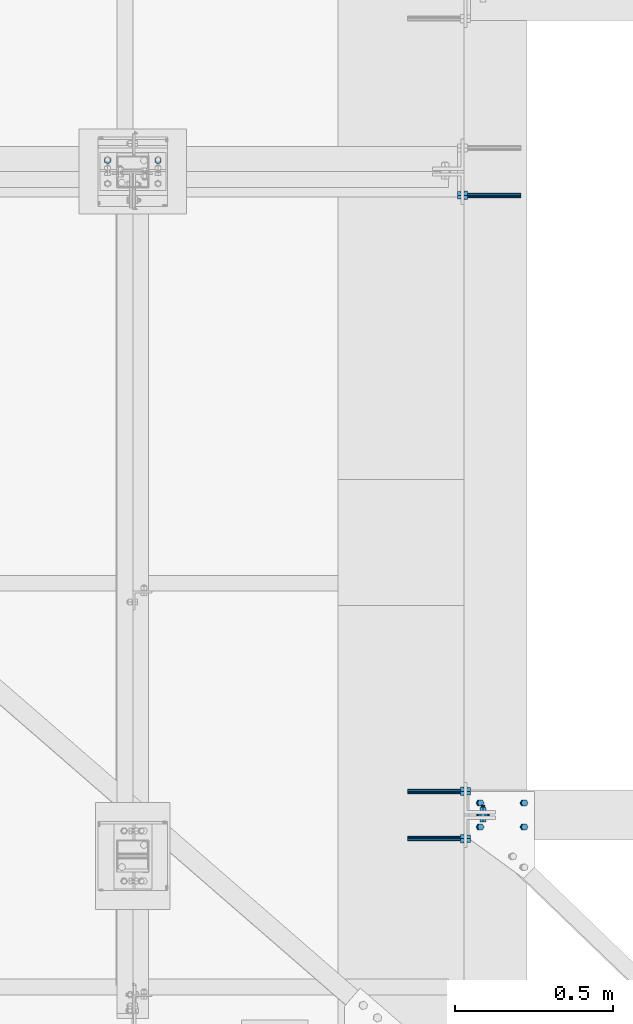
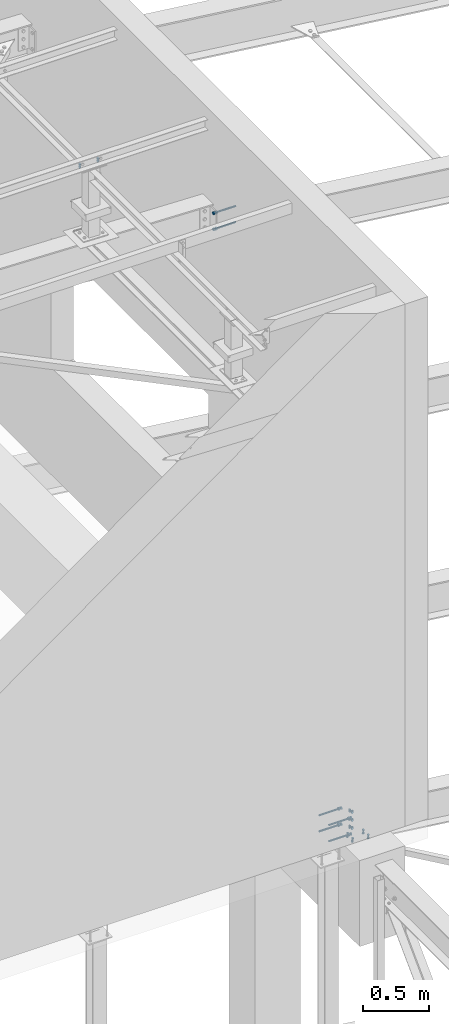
# One storey, part 267 of 3134: 6 mechanical fasteners, 5 elements without a shape of their own.
"""IFC2X3 building model written with IfcOpenShell, lengths in millimetres."""

import ifcopenshell
import ifcopenshell.guid

model = None  # the IFC model being written
_history = None  # IfcOwnerHistory: only IFC2X3 demands one
_inside = {}  # id of a spatial element -> (the spatial element, [elements in it])
_under = {}  # id of a project, library or spatial element -> (it, [spatial elements below it])
_declared = {}  # id of a project -> (the project, [libraries it declares])
_typed = {}  # id of a type object -> (the type object, [elements of that type])
_made_of = {}  # id of a material, layer set ... -> (it, [elements and type objects made of it])


def new_model(schema):
    """Start an empty IFC model of exactly this schema.

    Asked for "IFC4X3", IfcOpenShell would pick the latest addendum, in which some entities
    have other attributes; the version numbers below select the first issue.
    IFC2X3 requires an IfcOwnerHistory on every rooted entity: one is made here for all.
    """
    global model, _history
    if schema == "IFC4X3":
        model = ifcopenshell.file(schema_version=(4, 3, 0, 0))
    else:
        model = ifcopenshell.file(schema=schema)
    _inside.clear()
    _under.clear()
    _declared.clear()
    _typed.clear()
    _made_of.clear()
    _history = None
    if model.schema == "IFC2X3":
        org = make("IfcOrganization", Name="unknown")
        user = make(
            "IfcPersonAndOrganization",
            ThePerson=make("IfcPerson", FamilyName="unknown"),
            TheOrganization=org,
        )
        app = make(
            "IfcApplication",
            ApplicationDeveloper=org,
            Version="unknown",
            ApplicationFullName="unknown",
            ApplicationIdentifier="unknown",
        )
        _history = make(
            "IfcOwnerHistory",
            OwningUser=user,
            OwningApplication=app,
            ChangeAction="ADDED",
            CreationDate=0,
        )
    return model


def make(cls, **values):
    """One entity of the class cls with the attributes given. An attribute that is None is left unset."""
    return model.create_entity(
        cls, **{name: value for name, value in values.items() if value is not None}
    )


def rooted(cls, **values):
    """An entity with a GlobalId (a new one), such as an element, a storey or a relation."""
    return make(cls, GlobalId=ifcopenshell.guid.new(), OwnerHistory=_history, **values)


def si_unit(unit_type, name, prefix=None):
    """IfcSIUnit, for example si_unit("LENGTHUNIT", "METRE", prefix="MILLI")."""
    return make("IfcSIUnit", UnitType=unit_type, Prefix=prefix, Name=name)


def assignment(units):
    """IfcUnitAssignment: the units of a project."""
    return None if units is None else make("IfcUnitAssignment", Units=units)


def point(xyz):
    """IfcCartesianPoint."""
    return None if xyz is None else make("IfcCartesianPoint", Coordinates=xyz)


def direction(xyz):
    """IfcDirection."""
    return None if xyz is None else make("IfcDirection", DirectionRatios=xyz)


def frame(location, z_axis=None, x_axis=None):
    """IfcAxis2Placement3D, a coordinate frame: its origin and axes. An axis left out is left unset."""
    return make(
        "IfcAxis2Placement3D",
        Location=point(location),
        Axis=direction(z_axis),
        RefDirection=direction(x_axis),
    )


def origin_with_axes():
    """The frame at (0, 0, 0) with the z axis (0, 0, 1) and the x axis (1, 0, 0) written out."""
    return frame((0.0, 0.0, 0.0), z_axis=(0.0, 0.0, 1.0), x_axis=(1.0, 0.0, 0.0))


def place(relative_to, where):
    """IfcLocalPlacement: puts the frame where relative to a parent placement (None: the world)."""
    return make(
        "IfcLocalPlacement", PlacementRelTo=relative_to, RelativePlacement=where
    )


def context(
    kind, dimensions, precision=None, world=None, true_north=None, identifier=None
):
    """IfcGeometricRepresentationContext, for example the 3D "Model" context."""
    return make(
        "IfcGeometricRepresentationContext",
        ContextIdentifier=identifier,
        ContextType=kind,
        CoordinateSpaceDimension=dimensions,
        Precision=precision,
        WorldCoordinateSystem=world,
        TrueNorth=true_north,
    )


def subcontext(parent, identifier, kind, view, scale=None):
    """IfcGeometricRepresentationSubContext, for example "Body" below "Model"."""
    return make(
        "IfcGeometricRepresentationSubContext",
        ContextIdentifier=identifier,
        ContextType=kind,
        ParentContext=parent,
        TargetScale=scale,
        TargetView=view,
    )


def project(units=None, contexts=None):
    """IfcProject with its units and contexts."""
    return rooted(
        "IfcProject",
        Name="project",
        RepresentationContexts=contexts,
        UnitsInContext=assignment(units),
    )


def spatial(cls, under=None, at=None, **own):
    """A site, building, storey or space (cls), placed at a placement, below another one or the project."""
    s = rooted(cls, ObjectPlacement=at, **own)
    if under is not None:
        _under.setdefault(under.id(), (under, []))[1].append(s)
    return s


def faces_of(points, faces, orient=None, outer=None):
    """IfcFace entities. A face is a list of loops; a loop is a list of indices into points, from 0.

    orient and outer hold one flag for each loop. By default every Orientation is true, the
    first loop of a face is its IfcFaceOuterBound and the others are IfcFaceBound.
    """
    made = []
    for i, loops in enumerate(faces):
        bounds = []
        for j, loop in enumerate(loops):
            is_outer = j == 0 if outer is None else outer[i][j]
            bounds.append(
                make(
                    "IfcFaceOuterBound" if is_outer else "IfcFaceBound",
                    Bound=make("IfcPolyLoop", Polygon=[points[k] for k in loop]),
                    Orientation=True if orient is None else orient[i][j],
                )
            )
        made.append(make("IfcFace", Bounds=bounds))
    return made


def faceted_brep(points, faces, orient=None, outer=None, voids=None):
    """IfcFacetedBrep: a solid bounded by flat faces; with voids (closed shells), ...WithVoids."""
    shared = [point(p) for p in points]
    hull = make("IfcClosedShell", CfsFaces=faces_of(shared, faces, orient, outer))
    if voids is None:
        return make("IfcFacetedBrep", Outer=hull)
    return make(
        "IfcFacetedBrepWithVoids",
        Outer=hull,
        Voids=[
            make(cls, CfsFaces=faces_of(shared, fs, o, b)) for cls, fs, o, b in voids
        ],
    )


def shape(context_of_items, identifier, shape_type, items):
    """IfcShapeRepresentation: the items that make up one representation, for example the "Body"."""
    return make(
        "IfcShapeRepresentation",
        ContextOfItems=context_of_items,
        RepresentationIdentifier=identifier,
        RepresentationType=shape_type,
        Items=items,
    )


def source(mapping_origin, context_of_items, identifier, shape_type, items):
    """IfcRepresentationMap: a shape defined once, which mapped items show again and again."""
    return make(
        "IfcRepresentationMap",
        MappingOrigin=mapping_origin,
        MappedRepresentation=shape(context_of_items, identifier, shape_type, items),
    )


def transform(
    local_origin,
    x_axis=None,
    y_axis=None,
    z_axis=None,
    scale=None,
    scale2=None,
    scale3=None,
    uniform=True,
):
    """IfcCartesianTransformationOperator3D, or its non-uniform kind. x_axis, y_axis, z_axis: its Axis1, 2, 3."""
    if uniform:
        return make(
            "IfcCartesianTransformationOperator3D",
            Axis1=direction(x_axis),
            Axis2=direction(y_axis),
            LocalOrigin=point(local_origin),
            Scale=scale,
            Axis3=direction(z_axis),
        )
    return make(
        "IfcCartesianTransformationOperator3DnonUniform",
        Axis1=direction(x_axis),
        Axis2=direction(y_axis),
        LocalOrigin=point(local_origin),
        Scale=scale,
        Axis3=direction(z_axis),
        Scale2=scale2,
        Scale3=scale3,
    )


def mapped(mapping_source, mapping_target):
    """IfcMappedItem: shows the shape of a source again, moved by a transform."""
    return make(
        "IfcMappedItem", MappingSource=mapping_source, MappingTarget=mapping_target
    )


def material(Name=None, Category=None):
    """IfcMaterial."""
    return make("IfcMaterial", Name=Name, Category=Category)


def made_of(thing, what):
    """Note that an element or type object is made of a material, layer set ...; save() writes the relation."""
    if what is not None:
        _made_of.setdefault(what.id(), (what, []))[1].append(thing)
    return thing


def type_object(cls, material=None, **own):
    """A type object (cls), such as IfcWallType, which elements share."""
    return made_of(rooted(cls, **own), material)


def element(
    cls,
    number,
    at=None,
    inside=None,
    cuts=None,
    type_object=None,
    material=None,
    context=None,
    identifier="Body",
    shape_type=None,
    held_by="IfcProductDefinitionShape",
    body=None,
    shapes=None,
    **own,
):
    """One element of the class cls, such as IfcWall. Its Tag is "e" and its number.

    at: its placement. inside: the storey or other place that contains it. cuts: it is an
    opening in that element (IfcRelVoidsElement). A single representation is given by context,
    identifier, shape_type and body (its items); several are given by shapes. held_by: the class
    of the entity that holds the representations. save() writes the other relations.
    """
    e = rooted(cls, Tag="e%d" % number, ObjectPlacement=at, **own)
    if body is not None:
        shapes = [shape(context, identifier, shape_type, body)]
    if shapes is not None:
        e.Representation = make(held_by, Representations=shapes)
    if inside is not None:
        _inside.setdefault(inside.id(), (inside, []))[1].append(e)
    if cuts is not None:
        rooted(
            "IfcRelVoidsElement", RelatingBuildingElement=cuts, RelatedOpeningElement=e
        )
    if type_object is not None:
        _typed.setdefault(type_object.id(), (type_object, []))[1].append(e)
    return made_of(e, material)


def aggregate(whole, parts):
    """IfcRelAggregates: a whole, such as a stair, and the parts it consists of."""
    return rooted("IfcRelAggregates", RelatingObject=whole, RelatedObjects=parts)


def save(model, path):
    """Write the relations noted so far, then the file.

    IfcRelAggregates (storeys below a building ...), IfcRelContainedInSpatialStructure (elements
    in a storey), IfcRelDefinesByType, IfcRelAssociatesMaterial and IfcRelDeclares: one each for
    every whole, place, type object, material and project.
    """
    for whole, parts in _under.values():
        aggregate(whole, parts)
    for where, things in _inside.values():
        rooted(
            "IfcRelContainedInSpatialStructure",
            RelatedElements=things,
            RelatingStructure=where,
        )
    for kind, things in _typed.values():
        rooted("IfcRelDefinesByType", RelatedObjects=things, RelatingType=kind)
    for what, things in _made_of.values():
        rooted("IfcRelAssociatesMaterial", RelatedObjects=things, RelatingMaterial=what)
    for by, libraries in _declared.values():
        rooted("IfcRelDeclares", RelatingContext=by, RelatedDefinitions=libraries)
    model.write(path)


model = new_model("IFC2X3")

# Units and contexts
model_context = context("Model", 3, precision=1e-05, world=origin_with_axes())
body_context = subcontext(model_context, "Body", "Model", "MODEL_VIEW")
ifc_project = project(units=[si_unit("LENGTHUNIT", "METRE", prefix="MILLI"), si_unit("AREAUNIT", "SQUARE_METRE"), si_unit("VOLUMEUNIT", "CUBIC_METRE"), si_unit("MASSUNIT", "GRAM", prefix="KILO"), si_unit("TIMEUNIT", "SECOND"), si_unit("PLANEANGLEUNIT", "RADIAN"), si_unit("SOLIDANGLEUNIT", "STERADIAN"), si_unit("THERMODYNAMICTEMPERATUREUNIT", "DEGREE_CELSIUS"), si_unit("LUMINOUSINTENSITYUNIT", "LUMEN")], contexts=[model_context])

# Site, building, storey
site_placement = place(None, origin_with_axes())
site = spatial("IfcSite", under=ifc_project, at=site_placement, CompositionType="ELEMENT")
building_placement = place(site_placement, origin_with_axes())
building = spatial("IfcBuilding", under=site, at=building_placement, Name="Undefined", CompositionType="ELEMENT")
storey_placement = place(building_placement, origin_with_axes())
storey = spatial("IfcBuildingStorey", under=building, at=storey_placement, Name="Undefined", CompositionType="ELEMENT", Elevation=0.0)

# Assembly, mechanical fastener
assembly_1_placement = place(storey_placement, origin_with_axes())
assembly_1 = element("IfcElementAssembly", 1, at=assembly_1_placement, inside=storey, AssemblyPlace="NOTDEFINED", PredefinedType="RIGID_FRAME")
ifc_material_1 = material(Name="HILTI-HAS")
mechanical_fastener_type = type_object("IfcMechanicalFastenerType", Name="Bolt assembly")
shared_shape_1 = source(origin_with_axes(), body_context, "Body", "Brep", [
    faceted_brep([(13.856406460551, -20.56, 0.0), (6.92820323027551, -20.56, 12.0), (-6.92820323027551, -20.56, 12.0), (-13.856406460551, -20.56, 1.69692038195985e-15), (-6.92820323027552, -20.56, -12.0), (6.9282032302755, -20.56, -12.0), (6.9282032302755, -10.0, -12.0), (-6.92820323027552, -10.0, -12.0), (-13.856406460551, -10.0, 1.69692038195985e-15), (-6.92820323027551, -10.0, 12.0), (6.92820323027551, -10.0, 12.0), (13.856406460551, -10.0, 0.0), (8.0, -10.0, 0.0), (6.92820323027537, -10.0, 4.00000000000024), (3.99999999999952, -10.0, 6.92820323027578), (-8.29068785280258e-13, -10.0, 8.0), (-4.00000000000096, -10.0, 6.92820323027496), (-6.9282032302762, -10.0, 3.99999999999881), (-8.0, -10.0, -1.65813757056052e-12), (-6.92820323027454, -10.0, -4.00000000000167), (-3.99999999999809, -10.0, -6.92820323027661), (2.47832457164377e-12, -10.0, -8.0), (4.00000000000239, -10.0, -6.92820323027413), (6.92820323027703, -10.0, -3.99999999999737), (6.92820323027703, 180.0, -3.99999999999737), (4.00000000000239, 180.0, -6.92820323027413), (2.47832457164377e-12, 180.0, -8.0), (-3.99999999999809, 180.0, -6.92820323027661), (-6.92820323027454, 180.0, -4.00000000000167), (-8.0, 180.0, -1.65813757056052e-12), (-6.9282032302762, 180.0, 3.99999999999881), (-4.00000000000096, 180.0, 6.92820323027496), (-8.29068785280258e-13, 180.0, 8.0), (3.99999999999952, 180.0, 6.92820323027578), (6.92820323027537, 180.0, 4.00000000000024), (8.0, 180.0, 0.0), (15.3344231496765, 7.105427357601e-15, 0.0), (7.66721157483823, 7.105427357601e-15, 13.28), (-7.66721157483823, 7.105427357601e-15, 13.28), (-15.3344231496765, 7.105427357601e-15, 1.87792522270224e-15), (-7.66721157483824, 7.105427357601e-15, -13.28), (7.66721157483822, 7.105427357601e-15, -13.28), (7.66721157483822, 10.56, -13.28), (-7.66721157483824, 10.56, -13.28), (-15.3344231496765, 10.56, 1.87792522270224e-15), (-7.66721157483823, 10.56, 13.28), (7.66721157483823, 10.56, 13.28), (15.3344231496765, 10.56, 0.0)], [[[0, 1, 2, 3, 4, 5]], [[6, 7, 8, 9, 10, 11]], [[0, 11, 10, 1]], [[1, 10, 9, 2]], [[2, 9, 8, 3]], [[3, 8, 7, 4]], [[4, 7, 6, 5]], [[5, 6, 11, 0]], [[12, 13, 14, 15, 16, 17, 18, 19, 20, 21, 22, 23]], [[24, 25, 26, 27, 28, 29, 30, 31, 32, 33, 34, 35]], [[12, 35, 34, 13]], [[13, 34, 33, 14]], [[14, 33, 32, 15]], [[15, 32, 31, 16]], [[16, 31, 30, 17]], [[17, 30, 29, 18]], [[18, 29, 28, 19]], [[19, 28, 27, 20]], [[20, 27, 26, 21]], [[21, 26, 25, 22]], [[22, 25, 24, 23]], [[23, 24, 35, 12]], [[36, 37, 38, 39, 40, 41]], [[42, 43, 44, 45, 46, 47]], [[36, 47, 46, 37]], [[37, 46, 45, 38]], [[38, 45, 44, 39]], [[39, 44, 43, 40]], [[40, 43, 42, 41]], [[41, 42, 47, 36]]]),
    faceted_brep([(9.0, -10.0, 0.0), (7.79422863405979, -10.0, 4.50000000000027), (4.49999999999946, -10.0, 7.79422863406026), (-9.3270238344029e-13, -10.0, 9.0), (-4.50000000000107, -10.0, 7.79422863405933), (-7.79422863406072, -10.0, 4.49999999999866), (-9.0, -10.0, -1.86540476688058e-12), (-7.79422863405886, -10.0, -4.50000000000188), (-4.49999999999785, -10.0, -7.79422863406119), (2.78811514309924e-12, -10.0, -9.0), (4.50000000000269, -10.0, -7.7942286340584), (7.79422863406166, -10.0, -4.49999999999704), (7.79422863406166, 0.100000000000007, -4.49999999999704), (4.50000000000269, 0.100000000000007, -7.7942286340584), (2.78811514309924e-12, 0.100000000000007, -9.0), (-4.49999999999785, 0.100000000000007, -7.79422863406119), (-7.79422863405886, 0.100000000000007, -4.50000000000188), (-9.0, 0.100000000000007, -1.86540476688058e-12), (-7.79422863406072, 0.100000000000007, 4.49999999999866), (-4.50000000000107, 0.100000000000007, 7.79422863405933), (-9.3270238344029e-13, 0.100000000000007, 9.0), (4.49999999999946, 0.100000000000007, 7.79422863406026), (7.79422863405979, 0.100000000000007, 4.50000000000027), (9.0, 0.100000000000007, 0.0)], [[[0, 1, 2, 3, 4, 5, 6, 7, 8, 9, 10, 11]], [[12, 13, 14, 15, 16, 17, 18, 19, 20, 21, 22, 23]], [[0, 23, 22, 1]], [[1, 22, 21, 2]], [[2, 21, 20, 3]], [[3, 20, 19, 4]], [[4, 19, 18, 5]], [[5, 18, 17, 6]], [[6, 17, 16, 7]], [[7, 16, 15, 8]], [[8, 15, 14, 9]], [[9, 14, 13, 10]], [[10, 13, 12, 11]], [[11, 12, 23, 0]]]),
])
mechanical_fastener_1_placement = place(assembly_1_placement, frame((32724.9999999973, 50574.9999999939, 5696.01703557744), z_axis=(0.0, 1.0, 0.0), x_axis=(0.0, 0.0, -1.0)))
mechanical_fastener_1 = element("IfcMechanicalFastener", 2, at=mechanical_fastener_1_placement, type_object=mechanical_fastener_type, material=ifc_material_1, Name="Bolt assembly", NominalDiameter=16.0, NominalLength=190.0, context=body_context, shape_type="MappedRepresentation", body=[
    mapped(shared_shape_1, transform((0.0, 0.0, 0.0))),
    mapped(shared_shape_1, transform((150.0, 0.0, 0.0))),
])
aggregate(assembly_1, [mechanical_fastener_1])

assembly_2_placement = place(storey_placement, origin_with_axes())
assembly_2 = element("IfcElementAssembly", 3, at=assembly_2_placement, inside=storey, AssemblyPlace="NOTDEFINED", PredefinedType="RIGID_FRAME")
mechanical_fastener_2_placement = place(assembly_2_placement, frame((32724.999999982, 50724.9999999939, 5696.01703557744), z_axis=(0.0, 1.0, 0.0), x_axis=(0.0, 0.0, -1.0)))
mechanical_fastener_2 = element("IfcMechanicalFastener", 4, at=mechanical_fastener_2_placement, type_object=mechanical_fastener_type, material=ifc_material_1, Name="Bolt assembly", NominalDiameter=16.0, NominalLength=190.0, context=body_context, shape_type="MappedRepresentation", body=[
    mapped(shared_shape_1, transform((0.0, 0.0, 0.0))),
    mapped(shared_shape_1, transform((150.0, 0.0, 0.0))),
])
aggregate(assembly_2, [mechanical_fastener_2])

assembly_3_placement = place(storey_placement, origin_with_axes())
assembly_3 = element("IfcElementAssembly", 5, at=assembly_3_placement, inside=storey, AssemblyPlace="NOTDEFINED", PredefinedType="RIGID_FRAME")
mechanical_fastener_3_placement = place(assembly_3_placement, frame((32725.0, 52615.0, 10096.4159140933), z_axis=(0.0, -1.0, 0.0), x_axis=(0.0, 0.0, -1.0)))
mechanical_fastener_3 = element("IfcMechanicalFastener", 6, at=mechanical_fastener_3_placement, type_object=mechanical_fastener_type, material=ifc_material_1, Name="Bolt assembly", NominalDiameter=16.0, NominalLength=190.0, context=body_context, shape_type="MappedRepresentation", body=[
    mapped(shared_shape_1, transform((0.0, 0.0, 0.0))),
    mapped(shared_shape_1, transform((150.0, 0.0, 0.0))),
])
aggregate(assembly_3, [mechanical_fastener_3])

# Assembly, mechanical fasteners
assembly_4_placement = place(storey_placement, origin_with_axes())
assembly_4 = element("IfcElementAssembly", 7, at=assembly_4_placement, inside=storey, Name="IPE330", AssemblyPlace="NOTDEFINED", PredefinedType="RIGID_FRAME")
ifc_material_2 = material(Name="8.8")
shared_shape_2 = source(origin_with_axes(), body_context, "Body", "Brep", [
    faceted_brep([(10.9696551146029, -23.4985759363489, 0.0), (5.48482755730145, -23.4985759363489, 9.5), (-5.48482755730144, -23.4985759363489, 9.5), (-10.9696551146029, -23.4985759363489, 1.34339530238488e-15), (-5.48482755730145, -23.4985759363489, -9.5), (5.48482755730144, -23.4985759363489, -9.50000000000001), (5.48482755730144, -15.4985759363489, -9.50000000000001), (-5.48482755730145, -15.4985759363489, -9.5), (-10.9696551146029, -15.4985759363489, 1.34339530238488e-15), (-5.48482755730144, -15.4985759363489, 9.5), (5.48482755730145, -15.4985759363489, 9.5), (10.9696551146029, -15.4985759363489, 0.0), (6.0, -15.4985759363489, 0.0), (5.19615242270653, -15.4985759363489, 3.00000000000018), (2.99999999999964, -15.4985759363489, 5.19615242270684), (-6.21801588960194e-13, -15.4985759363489, 6.0), (-3.00000000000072, -15.4985759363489, 5.19615242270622), (-5.19615242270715, -15.4985759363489, 2.9999999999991), (-6.0, -15.4985759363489, -1.24360317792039e-12), (-5.19615242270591, -15.4985759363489, -3.00000000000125), (-2.99999999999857, -15.4985759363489, -5.19615242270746), (1.85874342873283e-12, -15.4985759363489, -6.0), (3.00000000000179, -15.4985759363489, -5.1961524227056), (5.19615242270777, -15.4985759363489, -2.99999999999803), (5.19615242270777, 19.5014240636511, -2.99999999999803), (3.00000000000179, 19.5014240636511, -5.1961524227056), (1.85874342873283e-12, 19.5014240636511, -6.0), (-2.99999999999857, 19.5014240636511, -5.19615242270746), (-5.19615242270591, 19.5014240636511, -3.00000000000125), (-6.0, 19.5014240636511, -1.24360317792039e-12), (-5.19615242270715, 19.5014240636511, 2.9999999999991), (-3.00000000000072, 19.5014240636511, 5.19615242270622), (-6.21801588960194e-13, 19.5014240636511, 6.0), (2.99999999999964, 19.5014240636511, 5.19615242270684), (5.19615242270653, 19.5014240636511, 3.00000000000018), (6.0, 19.5014240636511, 0.0), (10.9696551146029, 4.00000000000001, 0.0), (5.48482755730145, 4.00000000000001, 9.5), (-5.48482755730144, 4.00000000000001, 9.5), (-10.9696551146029, 4.00000000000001, 1.34339530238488e-15), (-5.48482755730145, 4.00000000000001, -9.5), (5.48482755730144, 4.00000000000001, -9.50000000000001), (5.48482755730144, 14.0, -9.50000000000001), (-5.48482755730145, 14.0, -9.5), (-10.9696551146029, 14.0, 1.34339530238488e-15), (-5.48482755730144, 14.0, 9.5), (5.48482755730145, 14.0, 9.5), (10.9696551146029, 14.0, 0.0)], [[[0, 1, 2, 3, 4, 5]], [[6, 7, 8, 9, 10, 11]], [[0, 11, 10, 1]], [[1, 10, 9, 2]], [[2, 9, 8, 3]], [[3, 8, 7, 4]], [[4, 7, 6, 5]], [[5, 6, 11, 0]], [[12, 13, 14, 15, 16, 17, 18, 19, 20, 21, 22, 23]], [[24, 25, 26, 27, 28, 29, 30, 31, 32, 33, 34, 35]], [[12, 35, 34, 13]], [[13, 34, 33, 14]], [[14, 33, 32, 15]], [[15, 32, 31, 16]], [[16, 31, 30, 17]], [[17, 30, 29, 18]], [[18, 29, 28, 19]], [[19, 28, 27, 20]], [[20, 27, 26, 21]], [[21, 26, 25, 22]], [[22, 25, 24, 23]], [[23, 24, 35, 12]], [[36, 37, 38, 39, 40, 41]], [[42, 43, 44, 45, 46, 47]], [[36, 47, 46, 37]], [[37, 46, 45, 38]], [[38, 45, 44, 39]], [[39, 44, 43, 40]], [[40, 43, 42, 41]], [[41, 42, 47, 36]]]),
    faceted_brep([(7.0, -4.09998541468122, 0.0), (6.06217782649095, -4.09998541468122, 3.50000000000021), (3.49999999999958, -4.09998541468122, 6.06217782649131), (-7.25435187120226e-13, -4.09998541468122, 7.0), (-3.50000000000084, -4.09998541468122, 6.06217782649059), (-6.06217782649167, -4.09998541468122, 3.49999999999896), (-7.0, -4.09998541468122, -1.45087037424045e-12), (-6.06217782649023, -4.09998541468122, -3.50000000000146), (-3.49999999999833, -4.09998541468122, -6.06217782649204), (2.1685340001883e-12, -4.09998541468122, -7.0), (3.50000000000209, -4.09998541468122, -6.06217782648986), (6.0621778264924, -4.09998541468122, -3.4999999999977), (6.0621778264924, 4.00000000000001, -3.4999999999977), (3.50000000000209, 4.00000000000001, -6.06217782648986), (2.1685340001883e-12, 4.00000000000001, -7.0), (-3.49999999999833, 4.00000000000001, -6.06217782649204), (-6.06217782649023, 4.00000000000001, -3.50000000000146), (-7.0, 4.00000000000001, -1.45087037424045e-12), (-6.06217782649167, 4.00000000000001, 3.49999999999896), (-3.50000000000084, 4.00000000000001, 6.06217782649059), (-7.25435187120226e-13, 4.00000000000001, 7.0), (3.49999999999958, 4.00000000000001, 6.06217782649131), (6.06217782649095, 4.00000000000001, 3.50000000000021), (7.0, 4.00000000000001, 0.0), (7.0, -15.3985759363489, 0.0), (6.06217782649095, -15.3985759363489, 3.50000000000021), (3.49999999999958, -15.3985759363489, 6.06217782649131), (-7.25435187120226e-13, -15.3985759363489, 7.0), (-3.50000000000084, -15.3985759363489, 6.06217782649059), (-6.06217782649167, -15.3985759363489, 3.49999999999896), (-7.0, -15.3985759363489, -1.45087037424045e-12), (-6.06217782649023, -15.3985759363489, -3.50000000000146), (-3.49999999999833, -15.3985759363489, -6.06217782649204), (2.1685340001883e-12, -15.3985759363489, -7.0), (3.50000000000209, -15.3985759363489, -6.06217782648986), (6.0621778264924, -15.3985759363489, -3.4999999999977), (6.0621778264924, -3.89857593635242, -3.4999999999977), (3.50000000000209, -3.89857593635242, -6.06217782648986), (2.1685340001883e-12, -3.89857593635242, -7.0), (-3.49999999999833, -3.89857593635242, -6.06217782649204), (-6.06217782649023, -3.89857593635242, -3.50000000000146), (-7.0, -3.89857593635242, -1.45087037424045e-12), (-6.06217782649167, -3.89857593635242, 3.49999999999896), (-3.50000000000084, -3.89857593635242, 6.06217782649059), (-7.25435187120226e-13, -3.89857593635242, 7.0), (3.49999999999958, -3.89857593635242, 6.06217782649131), (6.06217782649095, -3.89857593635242, 3.50000000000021), (7.0, -3.89857593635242, 0.0)], [[[0, 1, 2, 3, 4, 5, 6, 7, 8, 9, 10, 11]], [[12, 13, 14, 15, 16, 17, 18, 19, 20, 21, 22, 23]], [[0, 23, 22, 1]], [[1, 22, 21, 2]], [[2, 21, 20, 3]], [[3, 20, 19, 4]], [[4, 19, 18, 5]], [[5, 18, 17, 6]], [[6, 17, 16, 7]], [[7, 16, 15, 8]], [[8, 15, 14, 9]], [[9, 14, 13, 10]], [[10, 13, 12, 11]], [[11, 12, 23, 0]], [[24, 25, 26, 27, 28, 29, 30, 31, 32, 33, 34, 35]], [[36, 37, 38, 39, 40, 41, 42, 43, 44, 45, 46, 47]], [[24, 47, 46, 25]], [[25, 46, 45, 26]], [[26, 45, 44, 27]], [[27, 44, 43, 28]], [[28, 43, 42, 29]], [[29, 42, 41, 30]], [[30, 41, 40, 31]], [[31, 40, 39, 32]], [[32, 39, 38, 33]], [[33, 38, 37, 34]], [[34, 37, 36, 35]], [[35, 36, 47, 24]]]),
])
mechanical_fastener_4_placement = place(assembly_4_placement, frame((32914.2120921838, 50650.0000000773, 5434.98038765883), z_axis=(0.0, -1.0, 0.0), x_axis=(-0.992623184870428, 0.0, 0.121240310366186)))
mechanical_fastener_4 = element("IfcMechanicalFastener", 8, at=mechanical_fastener_4_placement, type_object=mechanical_fastener_type, material=ifc_material_2, Name="Bolt assembly", NominalDiameter=12.0, NominalLength=35.0, context=body_context, shape_type="MappedRepresentation", body=[
    mapped(shared_shape_2, transform((0.0, 0.0, -38.0))),
    mapped(shared_shape_2, transform((140.000000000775, 5.85714587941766e-10, -38.0))),
    mapped(shared_shape_2, transform((0.0, 0.0, 38.0))),
    mapped(shared_shape_2, transform((140.000000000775, 5.85714587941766e-10, 38.0))),
])
shared_shape_3 = source(origin_with_axes(), body_context, "Body", "Brep", [
    faceted_brep([(10.9696551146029, -21.75, 0.0), (5.48482755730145, -21.75, 9.5), (-5.48482755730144, -21.75, 9.5), (-10.9696551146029, -21.75, 1.34339530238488e-15), (-5.48482755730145, -21.75, -9.5), (5.48482755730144, -21.75, -9.50000000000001), (5.48482755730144, -13.75, -9.50000000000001), (-5.48482755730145, -13.75, -9.5), (-10.9696551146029, -13.75, 1.34339530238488e-15), (-5.48482755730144, -13.75, 9.5), (5.48482755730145, -13.75, 9.5), (10.9696551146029, -13.75, 0.0), (6.0, -13.75, 0.0), (5.19615242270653, -13.75, 3.00000000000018), (2.99999999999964, -13.75, 5.19615242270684), (-6.21801588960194e-13, -13.75, 6.0), (-3.00000000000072, -13.75, 5.19615242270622), (-5.19615242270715, -13.75, 2.9999999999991), (-6.0, -13.75, -1.24360317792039e-12), (-5.19615242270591, -13.75, -3.00000000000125), (-2.99999999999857, -13.75, -5.19615242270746), (1.85874342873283e-12, -13.75, -6.0), (3.00000000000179, -13.75, -5.1961524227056), (5.19615242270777, -13.75, -2.99999999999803), (5.19615242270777, 31.25, -2.99999999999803), (3.00000000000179, 31.25, -5.1961524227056), (1.85874342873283e-12, 31.25, -6.0), (-2.99999999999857, 31.25, -5.19615242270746), (-5.19615242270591, 31.25, -3.00000000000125), (-6.0, 31.25, -1.24360317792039e-12), (-5.19615242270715, 31.25, 2.9999999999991), (-3.00000000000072, 31.25, 5.19615242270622), (-6.21801588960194e-13, 31.25, 6.0), (2.99999999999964, 31.25, 5.19615242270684), (5.19615242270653, 31.25, 3.00000000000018), (6.0, 31.25, 0.0), (10.9696551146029, 13.7500000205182, 0.0), (5.48482755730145, 13.7500000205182, 9.5), (-5.48482755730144, 13.7500000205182, 9.5), (-10.9696551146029, 13.7500000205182, 1.34339530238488e-15), (-5.48482755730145, 13.7500000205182, -9.5), (5.48482755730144, 13.7500000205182, -9.50000000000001), (5.48482755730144, 23.7500000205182, -9.50000000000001), (-5.48482755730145, 23.7500000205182, -9.5), (-10.9696551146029, 23.7500000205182, 1.34339530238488e-15), (-5.48482755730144, 23.7500000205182, 9.5), (5.48482755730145, 23.7500000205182, 9.5), (10.9696551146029, 23.7500000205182, 0.0)], [[[0, 1, 2, 3, 4, 5]], [[6, 7, 8, 9, 10, 11]], [[0, 11, 10, 1]], [[1, 10, 9, 2]], [[2, 9, 8, 3]], [[3, 8, 7, 4]], [[4, 7, 6, 5]], [[5, 6, 11, 0]], [[12, 13, 14, 15, 16, 17, 18, 19, 20, 21, 22, 23]], [[24, 25, 26, 27, 28, 29, 30, 31, 32, 33, 34, 35]], [[12, 35, 34, 13]], [[13, 34, 33, 14]], [[14, 33, 32, 15]], [[15, 32, 31, 16]], [[16, 31, 30, 17]], [[17, 30, 29, 18]], [[18, 29, 28, 19]], [[19, 28, 27, 20]], [[20, 27, 26, 21]], [[21, 26, 25, 22]], [[22, 25, 24, 23]], [[23, 24, 35, 12]], [[36, 37, 38, 39, 40, 41]], [[42, 43, 44, 45, 46, 47]], [[36, 47, 46, 37]], [[37, 46, 45, 38]], [[38, 45, 44, 39]], [[39, 44, 43, 40]], [[40, 43, 42, 41]], [[41, 42, 47, 36]]]),
    faceted_brep([(7.0, -13.65, 0.0), (6.06217782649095, -13.65, 3.50000000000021), (3.49999999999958, -13.65, 6.06217782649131), (-7.25435187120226e-13, -13.65, 7.0), (-3.50000000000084, -13.65, 6.06217782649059), (-6.06217782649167, -13.65, 3.49999999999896), (-7.0, -13.65, -1.45087037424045e-12), (-6.06217782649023, -13.65, -3.50000000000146), (-3.49999999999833, -13.65, -6.06217782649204), (2.1685340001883e-12, -13.65, -7.0), (3.50000000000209, -13.65, -6.06217782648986), (6.0621778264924, -13.65, -3.4999999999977), (6.0621778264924, -3.65, -3.4999999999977), (3.50000000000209, -3.65, -6.06217782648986), (2.1685340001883e-12, -3.65, -7.0), (-3.49999999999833, -3.65, -6.06217782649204), (-6.06217782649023, -3.65, -3.50000000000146), (-7.0, -3.65, -1.45087037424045e-12), (-6.06217782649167, -3.65, 3.49999999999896), (-3.50000000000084, -3.65, 6.06217782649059), (-7.25435187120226e-13, -3.65, 7.0), (3.49999999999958, -3.65, 6.06217782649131), (6.06217782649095, -3.65, 3.50000000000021), (7.0, -3.65, 0.0), (7.0, -3.75, 13.0), (6.46715672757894, -3.75, 15.6787840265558), (4.94974746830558, -3.75, 17.9497474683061), (-7.25435187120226e-13, -3.75, 20.0), (-3.50000000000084, -3.75, 19.0621778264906), (-6.06217782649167, -3.75, 16.499999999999), (-7.0, -3.75, 12.9999999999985), (-7.0, -3.75, -13.0000000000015), (-6.06217782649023, -3.75, -16.5000000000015), (-3.49999999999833, -3.75, -19.062177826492), (2.1685340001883e-12, -3.75, -20.0), (3.50000000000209, -3.75, -19.0621778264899), (6.0621778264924, -3.75, -16.4999999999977), (7.0, -3.75, -12.9999999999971), (7.0, 3.75, -12.9999999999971), (6.0621778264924, 3.75, -16.4999999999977), (3.50000000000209, 3.75, -19.0621778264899), (2.1685340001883e-12, 3.75, -20.0), (-3.49999999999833, 3.75, -19.062177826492), (-6.06217782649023, 3.75, -16.5000000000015), (-7.0, 3.75, -13.0000000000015), (-7.0, 3.75, 12.9999999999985), (-6.06217782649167, 3.75, 16.499999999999), (-3.50000000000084, 3.75, 19.0621778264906), (-7.25435187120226e-13, 3.75, 20.0), (2.67878402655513, 3.75, 19.4671567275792), (4.94974746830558, 3.75, 17.9497474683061), (6.46715672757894, 3.75, 15.6787840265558), (7.0, 3.75, 13.0), (2.67878402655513, -3.75, 19.4671567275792), (7.0, 3.65000002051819, 0.0), (6.06217782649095, 3.65000002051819, 3.50000000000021), (3.49999999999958, 3.65000002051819, 6.06217782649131), (-7.25435187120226e-13, 3.65000002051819, 7.0), (-3.50000000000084, 3.65000002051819, 6.06217782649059), (-6.06217782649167, 3.65000002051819, 3.49999999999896), (-7.0, 3.65000002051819, -1.45087037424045e-12), (-6.06217782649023, 3.65000002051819, -3.50000000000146), (-3.49999999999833, 3.65000002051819, -6.06217782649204), (2.1685340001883e-12, 3.65000002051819, -7.0), (3.50000000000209, 3.65000002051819, -6.06217782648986), (6.0621778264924, 3.65000002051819, -3.4999999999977), (6.0621778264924, 13.7500000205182, -3.4999999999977), (3.50000000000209, 13.7500000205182, -6.06217782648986), (2.1685340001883e-12, 13.7500000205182, -7.0), (-3.49999999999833, 13.7500000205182, -6.06217782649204), (-6.06217782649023, 13.7500000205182, -3.50000000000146), (-7.0, 13.7500000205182, -1.45087037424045e-12), (-6.06217782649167, 13.7500000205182, 3.49999999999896), (-3.50000000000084, 13.7500000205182, 6.06217782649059), (-7.25435187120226e-13, 13.7500000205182, 7.0), (3.49999999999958, 13.7500000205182, 6.06217782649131), (6.06217782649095, 13.7500000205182, 3.50000000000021), (7.0, 13.7500000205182, 0.0)], [[[0, 1, 2, 3, 4, 5, 6, 7, 8, 9, 10, 11]], [[12, 13, 14, 15, 16, 17, 18, 19, 20, 21, 22, 23]], [[0, 23, 22, 1]], [[1, 22, 21, 2]], [[2, 21, 20, 3]], [[3, 20, 19, 4]], [[4, 19, 18, 5]], [[5, 18, 17, 6]], [[6, 17, 16, 7]], [[7, 16, 15, 8]], [[8, 15, 14, 9]], [[9, 14, 13, 10]], [[10, 13, 12, 11]], [[11, 12, 23, 0]], [[24, 25, 26, 27, 28, 29, 30, 31, 32, 33, 34, 35, 36, 37]], [[38, 39, 40, 41, 42, 43, 44, 45, 46, 47, 48, 49, 50, 51, 52]], [[24, 52, 51, 25]], [[25, 51, 50, 26]], [[26, 50, 49, 53]], [[53, 49, 48, 27]], [[27, 48, 47, 28]], [[28, 47, 46, 29]], [[29, 46, 45, 30]], [[30, 45, 44, 31]], [[31, 44, 43, 32]], [[32, 43, 42, 33]], [[33, 42, 41, 34]], [[34, 41, 40, 35]], [[35, 40, 39, 36]], [[36, 39, 38, 37]], [[37, 38, 52, 24]], [[54, 55, 56, 57, 58, 59, 60, 61, 62, 63, 64, 65]], [[66, 67, 68, 69, 70, 71, 72, 73, 74, 75, 76, 77]], [[54, 77, 76, 55]], [[55, 76, 75, 56]], [[56, 75, 74, 57]], [[57, 74, 73, 58]], [[58, 73, 72, 59]], [[59, 72, 71, 60]], [[60, 71, 70, 61]], [[61, 70, 69, 62]], [[62, 69, 68, 63]], [[63, 68, 67, 64]], [[64, 67, 66, 65]], [[65, 66, 77, 54]]]),
])
mechanical_fastener_5_placement = place(assembly_4_placement, frame((32785.0, 50650.0, 5696.01703557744), z_axis=(1.0, 0.0, 0.0), x_axis=(0.0, 0.0, -1.0)))
mechanical_fastener_5 = element("IfcMechanicalFastener", 9, at=mechanical_fastener_5_placement, type_object=mechanical_fastener_type, material=ifc_material_2, Name="Bolt assembly", NominalDiameter=12.0, NominalLength=45.0, context=body_context, shape_type="MappedRepresentation", body=[
    mapped(shared_shape_3, transform((0.0, 0.0, 0.0))),
    mapped(shared_shape_3, transform((75.0, 0.0, 0.0))),
    mapped(shared_shape_3, transform((150.0, 0.0, 0.0))),
])
aggregate(assembly_4, [mechanical_fastener_4, mechanical_fastener_5])

# Assembly, mechanical fastener
assembly_5_placement = place(storey_placement, origin_with_axes())
assembly_5 = element("IfcElementAssembly", 10, at=assembly_5_placement, inside=storey, AssemblyPlace="NOTDEFINED", PredefinedType="RIGID_FRAME")
shared_shape_4 = source(origin_with_axes(), body_context, "Body", "Brep", [
    faceted_brep([(10.9696551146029, -14.0, 0.0), (5.48482755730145, -14.0, 9.5), (-5.48482755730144, -14.0, 9.5), (-10.9696551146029, -14.0, 1.34339530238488e-15), (-5.48482755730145, -14.0, -9.5), (5.48482755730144, -14.0, -9.50000000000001), (5.48482755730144, -6.0, -9.50000000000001), (-5.48482755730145, -6.0, -9.5), (-10.9696551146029, -6.0, 1.34339530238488e-15), (-5.48482755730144, -6.0, 9.5), (5.48482755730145, -6.0, 9.5), (10.9696551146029, -6.0, 0.0), (6.0, -6.0, 0.0), (5.19615242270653, -6.0, 3.00000000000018), (2.99999999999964, -6.0, 5.19615242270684), (-6.21801588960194e-13, -6.0, 6.0), (-3.00000000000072, -6.0, 5.19615242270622), (-5.19615242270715, -6.0, 2.9999999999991), (-6.0, -6.0, -1.24360317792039e-12), (-5.19615242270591, -6.0, -3.00000000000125), (-2.99999999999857, -6.0, -5.19615242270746), (1.85874342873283e-12, -6.0, -6.0), (3.00000000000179, -6.0, -5.1961524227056), (5.19615242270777, -6.0, -2.99999999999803), (5.19615242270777, 24.0, -2.99999999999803), (3.00000000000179, 24.0, -5.1961524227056), (1.85874342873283e-12, 24.0, -6.0), (-2.99999999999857, 24.0, -5.19615242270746), (-5.19615242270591, 24.0, -3.00000000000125), (-6.0, 24.0, -1.24360317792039e-12), (-5.19615242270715, 24.0, 2.9999999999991), (-3.00000000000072, 24.0, 5.19615242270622), (-6.21801588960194e-13, 24.0, 6.0), (2.99999999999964, 24.0, 5.19615242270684), (5.19615242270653, 24.0, 3.00000000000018), (6.0, 24.0, 0.0), (10.9696551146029, 6.00000000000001, 0.0), (5.48482755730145, 6.00000000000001, 9.5), (-5.48482755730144, 6.00000000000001, 9.5), (-10.9696551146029, 6.00000000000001, 1.34339530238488e-15), (-5.48482755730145, 6.00000000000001, -9.5), (5.48482755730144, 6.00000000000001, -9.50000000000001), (5.48482755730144, 16.0, -9.50000000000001), (-5.48482755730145, 16.0, -9.5), (-10.9696551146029, 16.0, 1.34339530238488e-15), (-5.48482755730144, 16.0, 9.5), (5.48482755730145, 16.0, 9.5), (10.9696551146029, 16.0, 0.0)], [[[0, 1, 2, 3, 4, 5]], [[6, 7, 8, 9, 10, 11]], [[0, 11, 10, 1]], [[1, 10, 9, 2]], [[2, 9, 8, 3]], [[3, 8, 7, 4]], [[4, 7, 6, 5]], [[5, 6, 11, 0]], [[12, 13, 14, 15, 16, 17, 18, 19, 20, 21, 22, 23]], [[24, 25, 26, 27, 28, 29, 30, 31, 32, 33, 34, 35]], [[12, 35, 34, 13]], [[13, 34, 33, 14]], [[14, 33, 32, 15]], [[15, 32, 31, 16]], [[16, 31, 30, 17]], [[17, 30, 29, 18]], [[18, 29, 28, 19]], [[19, 28, 27, 20]], [[20, 27, 26, 21]], [[21, 26, 25, 22]], [[22, 25, 24, 23]], [[23, 24, 35, 12]], [[36, 37, 38, 39, 40, 41]], [[42, 43, 44, 45, 46, 47]], [[36, 47, 46, 37]], [[37, 46, 45, 38]], [[38, 45, 44, 39]], [[39, 44, 43, 40]], [[40, 43, 42, 41]], [[41, 42, 47, 36]]]),
    faceted_brep([(7.0, -0.1, 0.0), (6.06217782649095, -0.1, 3.50000000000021), (3.49999999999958, -0.1, 6.06217782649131), (-7.25435187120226e-13, -0.1, 7.0), (-3.50000000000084, -0.1, 6.06217782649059), (-6.06217782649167, -0.1, 3.49999999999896), (-7.0, -0.1, -1.45087037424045e-12), (-6.06217782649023, -0.1, -3.50000000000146), (-3.49999999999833, -0.1, -6.06217782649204), (2.1685340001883e-12, -0.1, -7.0), (3.50000000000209, -0.1, -6.06217782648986), (6.0621778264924, -0.1, -3.4999999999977), (6.0621778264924, 6.00000000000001, -3.4999999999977), (3.50000000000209, 6.00000000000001, -6.06217782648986), (2.1685340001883e-12, 6.00000000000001, -7.0), (-3.49999999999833, 6.00000000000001, -6.06217782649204), (-6.06217782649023, 6.00000000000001, -3.50000000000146), (-7.0, 6.00000000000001, -1.45087037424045e-12), (-6.06217782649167, 6.00000000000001, 3.49999999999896), (-3.50000000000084, 6.00000000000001, 6.06217782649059), (-7.25435187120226e-13, 6.00000000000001, 7.0), (3.49999999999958, 6.00000000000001, 6.06217782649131), (6.06217782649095, 6.00000000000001, 3.50000000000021), (7.0, 6.00000000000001, 0.0), (7.0, -5.9, 0.0), (6.06217782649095, -5.9, 3.50000000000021), (3.49999999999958, -5.9, 6.06217782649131), (-7.25435187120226e-13, -5.9, 7.0), (-3.50000000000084, -5.9, 6.06217782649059), (-6.06217782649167, -5.9, 3.49999999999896), (-7.0, -5.9, -1.45087037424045e-12), (-6.06217782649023, -5.9, -3.50000000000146), (-3.49999999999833, -5.9, -6.06217782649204), (2.1685340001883e-12, -5.9, -7.0), (3.50000000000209, -5.9, -6.06217782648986), (6.0621778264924, -5.9, -3.4999999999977), (6.0621778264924, 0.0999999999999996, -3.4999999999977), (3.50000000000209, 0.0999999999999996, -6.06217782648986), (2.1685340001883e-12, 0.0999999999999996, -7.0), (-3.49999999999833, 0.0999999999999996, -6.06217782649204), (-6.06217782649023, 0.0999999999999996, -3.50000000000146), (-7.0, 0.0999999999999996, -1.45087037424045e-12), (-6.06217782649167, 0.0999999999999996, 3.49999999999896), (-3.50000000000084, 0.0999999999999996, 6.06217782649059), (-7.25435187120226e-13, 0.0999999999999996, 7.0), (3.49999999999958, 0.0999999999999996, 6.06217782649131), (6.06217782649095, 0.0999999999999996, 3.50000000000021), (7.0, 0.0999999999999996, 0.0)], [[[0, 1, 2, 3, 4, 5, 6, 7, 8, 9, 10, 11]], [[12, 13, 14, 15, 16, 17, 18, 19, 20, 21, 22, 23]], [[0, 23, 22, 1]], [[1, 22, 21, 2]], [[2, 21, 20, 3]], [[3, 20, 19, 4]], [[4, 19, 18, 5]], [[5, 18, 17, 6]], [[6, 17, 16, 7]], [[7, 16, 15, 8]], [[8, 15, 14, 9]], [[9, 14, 13, 10]], [[10, 13, 12, 11]], [[11, 12, 23, 0]], [[24, 25, 26, 27, 28, 29, 30, 31, 32, 33, 34, 35]], [[36, 37, 38, 39, 40, 41, 42, 43, 44, 45, 46, 47]], [[24, 47, 46, 25]], [[25, 46, 45, 26]], [[26, 45, 44, 27]], [[27, 44, 43, 28]], [[28, 43, 42, 29]], [[29, 42, 41, 30]], [[30, 41, 40, 31]], [[31, 40, 39, 32]], [[32, 39, 38, 33]], [[33, 38, 37, 34]], [[34, 37, 36, 35]], [[35, 36, 47, 24]]]),
])
mechanical_fastener_6_placement = place(assembly_5_placement, frame((31675.0, 52725.0, 10865.0), z_axis=(1.0, 0.0, 0.0), x_axis=(0.0, -1.0, 0.0)))
mechanical_fastener_6 = element("IfcMechanicalFastener", 11, at=mechanical_fastener_6_placement, type_object=mechanical_fastener_type, material=ifc_material_2, Name="Bolt assembly", NominalDiameter=12.0, NominalLength=30.0, context=body_context, shape_type="MappedRepresentation", body=[
    mapped(shared_shape_4, transform((0.0, -5.32963895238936e-10, -79.9999999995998))),
    mapped(shared_shape_4, transform((0.0, 5.3114490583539e-10, 79.9999999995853))),
])
aggregate(assembly_5, [mechanical_fastener_6])

save(model, "model.ifc")
